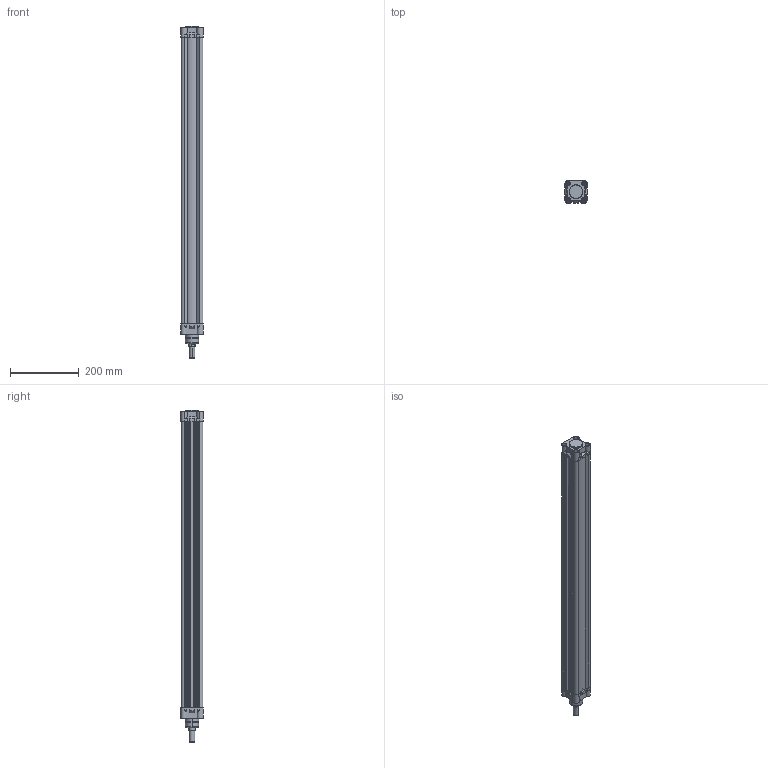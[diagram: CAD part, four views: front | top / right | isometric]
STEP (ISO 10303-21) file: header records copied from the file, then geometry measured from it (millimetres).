
FILE_DESCRIPTION (( 'STEP AP214' ), '1' );
FILE_NAME ('RIC50_800_MY_WEB.STEP', '2020-07-05T17:36:00', ( '' ), ( '' ), 'SwSTEP 2.0', 'SolidWorks 2018', '' );
FILE_SCHEMA (( 'AUTOMOTIVE_DESIGN' ));
Length unit declared in the file: millimetre
Products named in the file (6): 50_ON_KAPAK_WEB; 20_MIL_WEB; 50_ARKA_KAPAK_WEB; 50_BORU; 50bogazkecesi; RIC50_800_MY_WEB
Assembly tree (5 placements, depth 2):
  RIC50_800_MY_WEB
    50_BORU
    50_ARKA_KAPAK_WEB
    50_ON_KAPAK_WEB
    20_MIL_WEB
    50bogazkecesi
Bounding box: 65 x 65 x 965 mm (x, y, z)
Volume: 1342608.3 mm3; surface area: 547095.3 mm2
Topology: 5 solids, 5 shells, 576 faces, 1465 edges, 952 vertices
Faces by surface type: plane 265, cylinder 172, bspline 83, cone 40, torus 16
Entity records: 23952 total; most frequent: CARTESIAN_POINT 8155, ORIENTED_EDGE 2930, DIRECTION 2697, EDGE_CURVE 1465, VERTEX_POINT 952, AXIS2_PLACEMENT_3D 919, VECTOR 859, LINE 859
